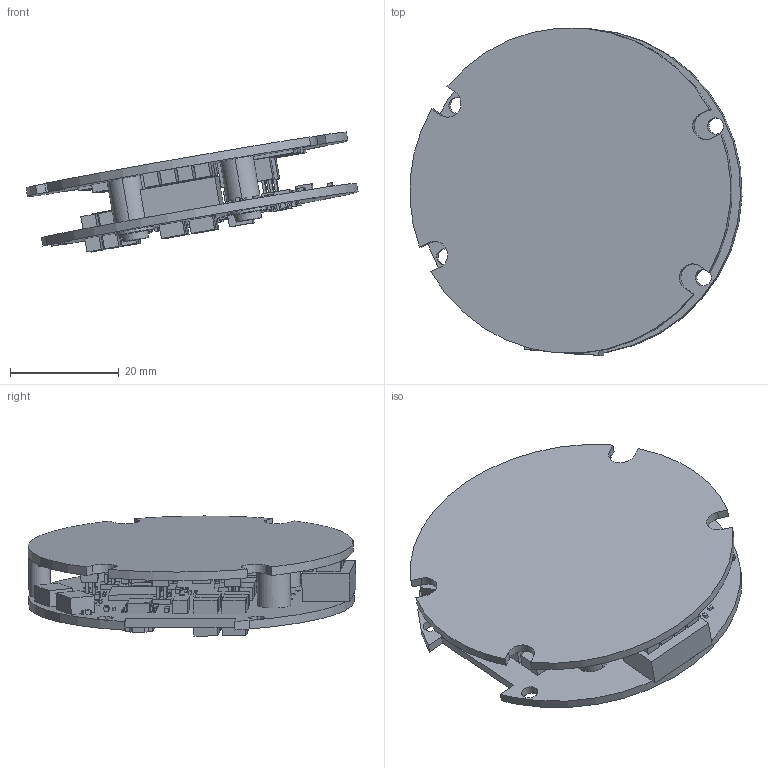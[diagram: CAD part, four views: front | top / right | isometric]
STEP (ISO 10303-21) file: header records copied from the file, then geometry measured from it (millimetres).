
FILE_DESCRIPTION (( 'STEP AP214' ), '1' );
FILE_NAME ('l12.STEP', '2024-11-25T15:41:17', ( '' ), ( '' ), 'SwSTEP 2.0', 'SolidWorks 2024', '' );
FILE_SCHEMA (( 'AUTOMOTIVE_DESIGN' ));
Length unit declared in the file: millimetre
Products named in the file (7): power; plain washers--product grade c gb_GB_FASTENER_WASHER_SMWC 3; ctrl; plain washers--product grade c gb_GB_FASTENER_WASHER_SMWC 1.6; cross recessed cheese head screws type a gb_GB_CROSS_SCREWS_TYPE135 M1.6X3-N; l12; cross recessed cheese head screws type a gb_GB_CROSS_SCREWS_TYPE135 M3X4-N
Assembly tree (8 placements, depth 2):
  l12
    ctrl
    power
    plain washers--product grade c gb_GB_FASTENER_WASHER_SMWC 3  x2
    plain washers--product grade c gb_GB_FASTENER_WASHER_SMWC 1.6
    cross recessed cheese head screws type a gb_GB_CROSS_SCREWS_TYPE135 M1.6X3-N
    cross recessed cheese head screws type a gb_GB_CROSS_SCREWS_TYPE135 M3X4-N  x2
Bounding box: 61.14 x 60.35 x 22.11 mm (x, y, z)
Volume: 12549.9 mm3; surface area: 19861.1 mm2
Topology: 514 solids, 514 shells, 3586 faces, 7452 edges, 4964 vertices
Faces by surface type: plane 3422, cylinder 140, cone 18, torus 6
Entity records: 97286 total; most frequent: CARTESIAN_POINT 15843, DIRECTION 14786, ORIENTED_EDGE 14740, EDGE_CURVE 7370, LINE 7080, VECTOR 7080, VERTEX_POINT 4910, AXIS2_PLACEMENT_3D 3853
